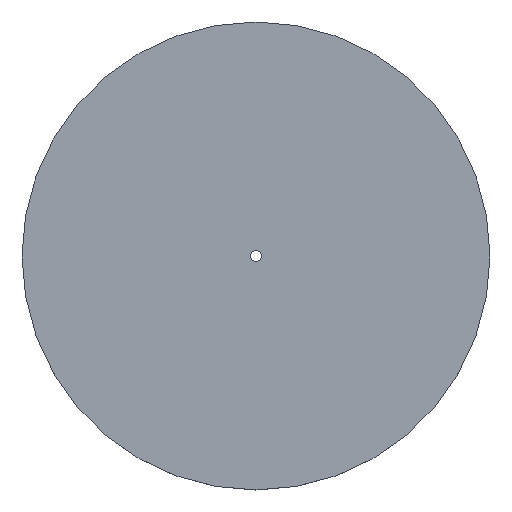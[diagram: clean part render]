
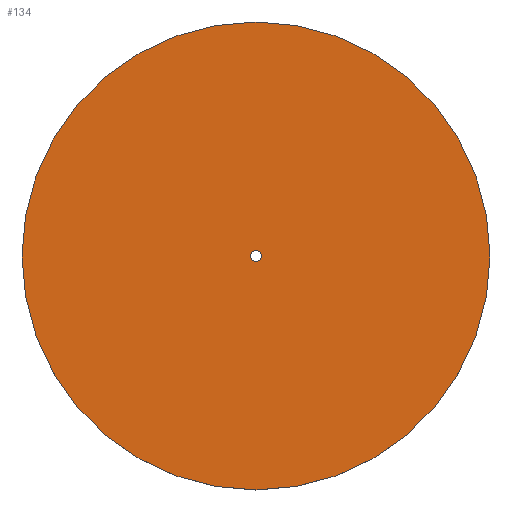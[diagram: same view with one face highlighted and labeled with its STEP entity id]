
A CAD part, top view. The second image highlights one B-rep face of the part: STEP entity #134.
In plain terms, the highlighted planar face has unit normal (0, 0, 1).
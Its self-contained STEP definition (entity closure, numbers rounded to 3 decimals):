
#29=CARTESIAN_POINT('',(0.,0.,0.7));
#30=DIRECTION('',(0.,0.,1.));
#31=DIRECTION('',(1.,0.,0.));
#32=AXIS2_PLACEMENT_3D('',#29,#30,#31);
#34=CARTESIAN_POINT('',(0.,0.,0.7));
#35=DIRECTION('',(0.,0.,1.));
#36=DIRECTION('',(-1.,0.,0.));
#37=AXIS2_PLACEMENT_3D('',#34,#35,#36);
#39=CARTESIAN_POINT('',(0.,0.,0.7));
#40=DIRECTION('',(0.,0.,1.));
#41=DIRECTION('',(1.,0.,0.));
#42=AXIS2_PLACEMENT_3D('',#39,#40,#41);
#44=CARTESIAN_POINT('',(0.,0.,0.7));
#45=DIRECTION('',(0.,0.,1.));
#46=DIRECTION('',(-1.,0.,0.));
#47=AXIS2_PLACEMENT_3D('',#44,#45,#46);
#61=CARTESIAN_POINT('',(6.35,0.,0.7));
#62=CARTESIAN_POINT('',(-6.35,0.,0.7));
#63=VERTEX_POINT('',#61);
#64=VERTEX_POINT('',#62);
#69=CARTESIAN_POINT('',(0.15,0.,0.7));
#70=CARTESIAN_POINT('',(-0.15,0.,0.7));
#71=VERTEX_POINT('',#69);
#72=VERTEX_POINT('',#70);
#119=CARTESIAN_POINT('',(0.,0.,0.7));
#120=DIRECTION('',(0.,0.,1.));
#121=DIRECTION('',(1.,0.,0.));
#122=AXIS2_PLACEMENT_3D('',#119,#120,#121);
#123=PLANE('',#122);
#124=ORIENTED_EDGE('',*,*,#99,.F.);
#125=ORIENTED_EDGE('',*,*,#113,.F.);
#126=EDGE_LOOP('',(#124,#125));
#127=FACE_OUTER_BOUND('',#126,.F.);
#129=ORIENTED_EDGE('',*,*,#128,.T.);
#131=ORIENTED_EDGE('',*,*,#130,.T.);
#132=EDGE_LOOP('',(#129,#131));
#133=FACE_BOUND('',#132,.F.);
#134=ADVANCED_FACE('',(#127,#133),#123,.T.);
#33=CIRCLE('',#32,6.35);
#38=CIRCLE('',#37,6.35);
#43=CIRCLE('',#42,0.15);
#48=CIRCLE('',#47,0.15);
#99=EDGE_CURVE('',#63,#64,#33,.T.);
#113=EDGE_CURVE('',#64,#63,#38,.T.);
#128=EDGE_CURVE('',#71,#72,#43,.T.);
#130=EDGE_CURVE('',#72,#71,#48,.T.);
